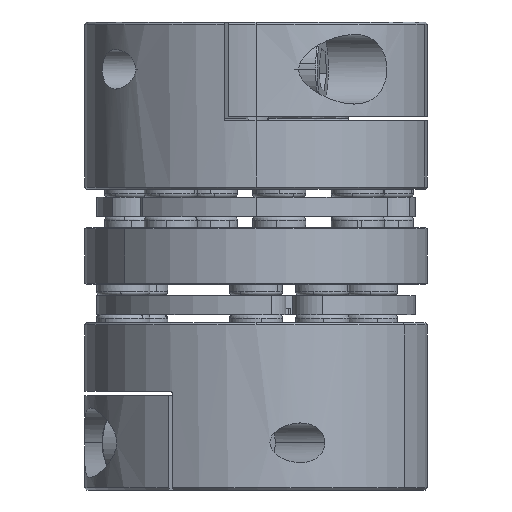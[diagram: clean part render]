
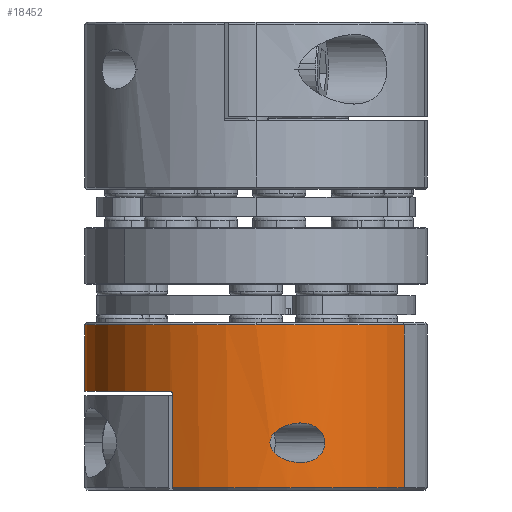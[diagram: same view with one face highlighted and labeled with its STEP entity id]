
A CAD part, left-side view. The second image highlights one B-rep face of the part: STEP entity #18452.
In plain terms, the highlighted cylindrical face has radius 61.5 mm (diameter 123 mm), a partial arc.
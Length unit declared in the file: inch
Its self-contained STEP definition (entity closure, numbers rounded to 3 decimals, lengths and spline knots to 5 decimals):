
#852=CARTESIAN_POINT('',(0.,0.,2.3322));
#853=DIRECTION('',(0.,0.,1.));
#854=DIRECTION('',(-1.,0.,0.));
#855=AXIS2_PLACEMENT_3D('',#852,#853,#854);
#860=DIRECTION('',(0.,0.,-1.));
#861=VECTOR('',#860,1.33596);
#862=CARTESIAN_POINT('',(-2.11171,1.18456,1.36596));
#863=LINE('',#862,#861);
#867=CARTESIAN_POINT('',(-2.09737,1.20976,1.39496));
#868=CARTESIAN_POINT('',(-2.09939,1.20626,1.39496));
#869=CARTESIAN_POINT('',(-2.10307,1.19984,1.39334));
#870=CARTESIAN_POINT('',(-2.10785,1.19142,1.38695));
#871=CARTESIAN_POINT('',(-2.11097,1.18588,1.37724));
#872=CARTESIAN_POINT('',(-2.11171,1.18456,1.36994));
#873=CARTESIAN_POINT('',(-2.11171,1.18456,1.36596));
#878=DIRECTION('',(0.,0.,-1.));
#879=VECTOR('',#878,2.3022);
#880=CARTESIAN_POINT('',(-1.21063,-2.09687,2.3322));
#881=LINE('',#880,#879);
#885=CARTESIAN_POINT('',(0.,0.,0.03));
#886=DIRECTION('',(0.,0.,-1.));
#887=DIRECTION('',(-0.5,-0.866,0.));
#888=AXIS2_PLACEMENT_3D('',#885,#886,#887);
#1159=DIRECTION('',(0.,0.,1.));
#1160=VECTOR('',#1159,0.93724);
#1161=CARTESIAN_POINT('',(1.21063,2.09687,1.39496));
#1162=LINE('',#1161,#1160);
#1204=CARTESIAN_POINT('',(0.,0.,1.39496));
#1205=DIRECTION('',(0.,0.,-1.));
#1206=DIRECTION('',(0.,1.,0.));
#1207=AXIS2_PLACEMENT_3D('',#1204,#1205,#1206);
#1212=CARTESIAN_POINT('',(0.,0.,1.39496));
#1213=DIRECTION('',(0.,0.,-1.));
#1214=DIRECTION('',(-0.866,0.5,0.));
#1215=AXIS2_PLACEMENT_3D('',#1212,#1213,#1214);
#1915=CARTESIAN_POINT('',(0.,0.,2.3322));
#1916=DIRECTION('',(0.,0.,1.));
#1917=DIRECTION('',(0.,1.,0.));
#1918=AXIS2_PLACEMENT_3D('',#1915,#1916,#1917);
#1923=CARTESIAN_POINT('',(0.,0.,2.3322));
#1924=DIRECTION('',(0.,0.,1.));
#1925=DIRECTION('',(0.5,0.866,0.));
#1926=AXIS2_PLACEMENT_3D('',#1923,#1924,#1925);
#1931=CARTESIAN_POINT('',(-2.41333,-0.19576,0.6675));
#1932=CARTESIAN_POINT('',(-2.41333,-0.19576,
0.65222));
#1933=CARTESIAN_POINT('',(-2.41299,-0.20016,
0.62099));
#1934=CARTESIAN_POINT('',(-2.41116,-0.22158,
0.57322));
#1935=CARTESIAN_POINT('',(-2.40761,-0.25775,
0.52729));
#1936=CARTESIAN_POINT('',(-2.40199,-0.30651,
0.48565));
#1937=CARTESIAN_POINT('',(-2.39362,-0.36686,
0.44883));
#1938=CARTESIAN_POINT('',(-2.38139,-0.44005,
0.41758));
#1939=CARTESIAN_POINT('',(-2.36411,-0.52572,
0.39473));
#1940=CARTESIAN_POINT('',(-2.34817,-0.59149,
0.38797));
#1941=CARTESIAN_POINT('',(-2.33894,-0.62597,
0.38797));
#1946=CARTESIAN_POINT('',(-2.33894,-0.62597,
0.94703));
#1947=CARTESIAN_POINT('',(-2.34814,-0.5916,
0.94703));
#1948=CARTESIAN_POINT('',(-2.36404,-0.52604,
0.94033));
#1949=CARTESIAN_POINT('',(-2.38134,-0.44032,
0.9175));
#1950=CARTESIAN_POINT('',(-2.39349,-0.36764,
0.88656));
#1951=CARTESIAN_POINT('',(-2.40192,-0.30711,
0.84977));
#1952=CARTESIAN_POINT('',(-2.40753,-0.2585,
0.80846));
#1953=CARTESIAN_POINT('',(-2.41111,-0.22207,
0.7626));
#1954=CARTESIAN_POINT('',(-2.41298,-0.2003,
0.71461));
#1955=CARTESIAN_POINT('',(-2.41333,-0.19576,
0.68301));
#1956=CARTESIAN_POINT('',(-2.41333,-0.19576,0.6675));
#2000=CARTESIAN_POINT('',(-2.21688,-0.97361,0.6675));
#2001=CARTESIAN_POINT('',(-2.21688,-0.97361,
0.68664));
#2002=CARTESIAN_POINT('',(-2.21888,-0.96906,
0.72509));
#2003=CARTESIAN_POINT('',(-2.22751,-0.94924,
0.77995));
#2004=CARTESIAN_POINT('',(-2.24191,-0.91486,
0.83231));
#2005=CARTESIAN_POINT('',(-2.26121,-0.86638,
0.8779));
#2006=CARTESIAN_POINT('',(-2.28483,-0.80247,
0.91512));
#2007=CARTESIAN_POINT('',(-2.31136,-0.72314,
0.94044));
#2008=CARTESIAN_POINT('',(-2.3299,-0.65978,
0.94703));
#2009=CARTESIAN_POINT('',(-2.33894,-0.62597,
0.94703));
#2021=CARTESIAN_POINT('',(-2.33894,-0.62597,
0.38797));
#2022=CARTESIAN_POINT('',(-2.32993,-0.65964,
0.38797));
#2023=CARTESIAN_POINT('',(-2.31146,-0.72281,
0.39449));
#2024=CARTESIAN_POINT('',(-2.28489,-0.80229,
0.41981));
#2025=CARTESIAN_POINT('',(-2.26131,-0.86613,
0.45689));
#2026=CARTESIAN_POINT('',(-2.24184,-0.91503,
0.50288));
#2027=CARTESIAN_POINT('',(-2.22745,-0.94935,
0.55521));
#2028=CARTESIAN_POINT('',(-2.21877,-0.96934,
0.61093));
#2029=CARTESIAN_POINT('',(-2.21688,-0.97361,
0.6488));
#2030=CARTESIAN_POINT('',(-2.21688,-0.97361,0.6675));
#15322=CARTESIAN_POINT('',(1.21063,2.09687,2.3322));
#15323=VERTEX_POINT('',#15322);
#15910=CARTESIAN_POINT('',(-2.11171,1.18456,
1.36596));
#15911=CARTESIAN_POINT('',(-2.11174,1.1845,0.03));
#15912=VERTEX_POINT('',#15910);
#15913=VERTEX_POINT('',#15911);
#17033=VERTEX_POINT('',#1931);
#17034=VERTEX_POINT('',#1941);
#17035=VERTEX_POINT('',#1946);
#17092=CARTESIAN_POINT('',(1.21063,2.09687,1.39496));
#17093=VERTEX_POINT('',#17092);
#17118=CARTESIAN_POINT('',(-2.09737,1.20976,
1.39496));
#17120=VERTEX_POINT('',#17118);
#17213=CARTESIAN_POINT('',(0.,2.42126,1.39496));
#17214=VERTEX_POINT('',#17213);
#17316=CARTESIAN_POINT('',(-2.42126,0.,2.3322));
#17317=CARTESIAN_POINT('',(-1.21063,-2.09687,
2.3322));
#17318=VERTEX_POINT('',#17316);
#17319=VERTEX_POINT('',#17317);
#17717=VERTEX_POINT('',#2030);
#17790=CARTESIAN_POINT('',(-1.21063,-2.09687,0.03));
#17791=VERTEX_POINT('',#17790);
#17848=CARTESIAN_POINT('',(0.,2.42126,2.3322));
#17849=VERTEX_POINT('',#17848);
#18416=CARTESIAN_POINT('',(0.,0.,0.));
#18417=DIRECTION('',(0.,0.,1.));
#18418=DIRECTION('',(0.,-1.,0.));
#18419=AXIS2_PLACEMENT_3D('',#18416,#18417,#18418);
#18420=CYLINDRICAL_SURFACE('',#18419,2.42126);
#18422=ORIENTED_EDGE('',*,*,#18421,.T.);
#18424=ORIENTED_EDGE('',*,*,#18423,.T.);
#18426=ORIENTED_EDGE('',*,*,#18425,.F.);
#18428=ORIENTED_EDGE('',*,*,#18427,.F.);
#18430=ORIENTED_EDGE('',*,*,#18429,.T.);
#18432=ORIENTED_EDGE('',*,*,#18431,.T.);
#18434=ORIENTED_EDGE('',*,*,#18433,.T.);
#18436=ORIENTED_EDGE('',*,*,#18435,.T.);
#18438=ORIENTED_EDGE('',*,*,#18437,.T.);
#18439=ORIENTED_EDGE('',*,*,#18409,.T.);
#18440=EDGE_LOOP('',(#18422,#18424,#18426,#18428,#18430,#18432,#18434,#18436,
#18438,#18439));
#18441=FACE_OUTER_BOUND('',#18440,.F.);
#18443=ORIENTED_EDGE('',*,*,#18442,.T.);
#18445=ORIENTED_EDGE('',*,*,#18444,.T.);
#18447=ORIENTED_EDGE('',*,*,#18446,.T.);
#18449=ORIENTED_EDGE('',*,*,#18448,.T.);
#18450=EDGE_LOOP('',(#18443,#18445,#18447,#18449));
#18451=FACE_BOUND('',#18450,.F.);
#856=CIRCLE('',#855,2.42126);
#874=B_SPLINE_CURVE_WITH_KNOTS('',3,(#867,#868,#869,#870,#871,#872,#873),
.UNSPECIFIED.,.F.,.F.,(4,1,1,1,4),(0.,0.25,0.5,0.75,1.),
.UNSPECIFIED.);
#889=CIRCLE('',#888,2.42126);
#1208=CIRCLE('',#1207,2.42126);
#1216=CIRCLE('',#1215,2.42126);
#1919=CIRCLE('',#1918,2.42126);
#1927=CIRCLE('',#1926,2.42126);
#1942=B_SPLINE_CURVE_WITH_KNOTS('',3,(#1931,#1932,#1933,#1934,#1935,#1936,#1937,
#1938,#1939,#1940,#1941),.UNSPECIFIED.,.F.,.F.,(4,1,1,1,1,1,1,1,4),(0.,
0.125,0.25,0.375,0.5,0.625,0.75,0.875,1.),.UNSPECIFIED.);
#1957=B_SPLINE_CURVE_WITH_KNOTS('',3,(#1946,#1947,#1948,#1949,#1950,#1951,#1952,
#1953,#1954,#1955,#1956),.UNSPECIFIED.,.F.,.F.,(4,1,1,1,1,1,1,1,4),(0.,
0.125,0.25,0.375,0.5,0.625,0.75,0.875,1.),.UNSPECIFIED.);
#2010=B_SPLINE_CURVE_WITH_KNOTS('',3,(#2000,#2001,#2002,#2003,#2004,#2005,#2006,
#2007,#2008,#2009),.UNSPECIFIED.,.F.,.F.,(4,1,1,1,1,1,1,4),(0.,
0.14286,0.28571,0.42857,0.57143,
0.71429,0.85714,1.),.UNSPECIFIED.);
#2031=B_SPLINE_CURVE_WITH_KNOTS('',3,(#2021,#2022,#2023,#2024,#2025,#2026,#2027,
#2028,#2029,#2030),.UNSPECIFIED.,.F.,.F.,(4,1,1,1,1,1,1,4),(0.,
0.14286,0.28571,0.42857,0.57143,
0.71429,0.85714,1.),.UNSPECIFIED.);
#18409=EDGE_CURVE('',#17318,#17319,#856,.T.);
#18421=EDGE_CURVE('',#17319,#17791,#881,.T.);
#18423=EDGE_CURVE('',#17791,#15913,#889,.T.);
#18425=EDGE_CURVE('',#15912,#15913,#863,.T.);
#18427=EDGE_CURVE('',#17120,#15912,#874,.T.);
#18429=EDGE_CURVE('',#17120,#17214,#1216,.T.);
#18431=EDGE_CURVE('',#17214,#17093,#1208,.T.);
#18433=EDGE_CURVE('',#17093,#15323,#1162,.T.);
#18435=EDGE_CURVE('',#15323,#17849,#1927,.T.);
#18437=EDGE_CURVE('',#17849,#17318,#1919,.T.);
#18442=EDGE_CURVE('',#17033,#17034,#1942,.T.);
#18444=EDGE_CURVE('',#17034,#17717,#2031,.T.);
#18446=EDGE_CURVE('',#17717,#17035,#2010,.T.);
#18448=EDGE_CURVE('',#17035,#17033,#1957,.T.);
#18452=ADVANCED_FACE('',(#18441,#18451),#18420,.T.);
